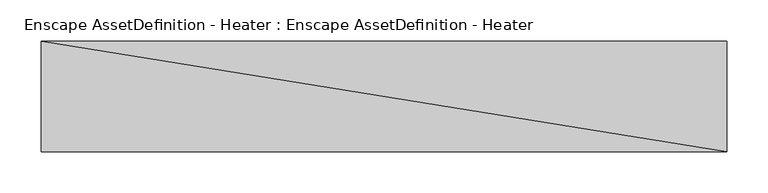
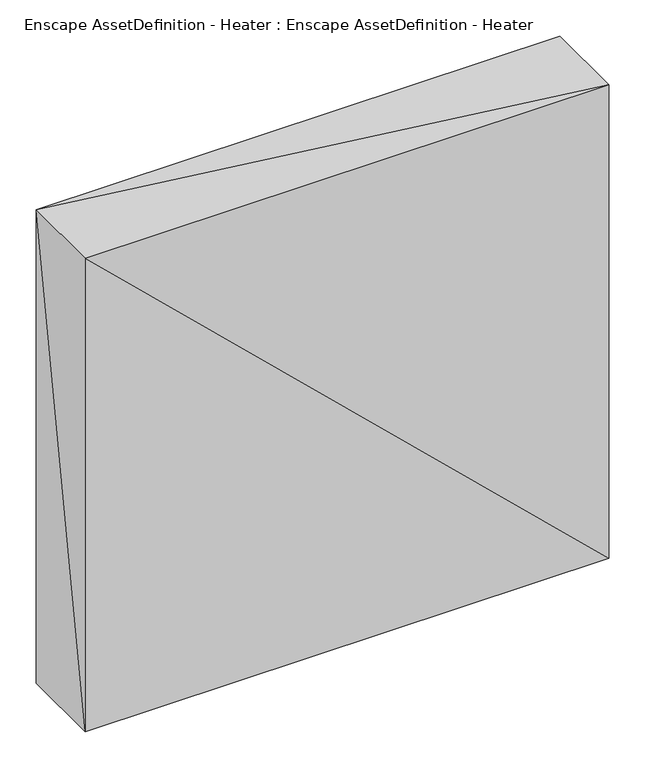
"""IFC4 building model written with IfcOpenShell, lengths in millimetres: geographic element geometry, Enscape AssetDefinition - Heater : Enscape AssetDefinition - Heater."""

import ifcopenshell
import ifcopenshell.guid

model = None  # the IFC model being written
_history = None  # IfcOwnerHistory: only IFC2X3 demands one
_inside = {}  # id of a spatial element -> (the spatial element, [elements in it])
_under = {}  # id of a project, library or spatial element -> (it, [spatial elements below it])
_declared = {}  # id of a project -> (the project, [libraries it declares])
_typed = {}  # id of a type object -> (the type object, [elements of that type])
_made_of = {}  # id of a material, layer set ... -> (it, [elements and type objects made of it])


def new_model(schema):
    """Start an empty IFC model of exactly this schema.

    Asked for "IFC4X3", IfcOpenShell would pick the latest addendum, in which some entities
    have other attributes; the version numbers below select the first issue.
    IFC2X3 requires an IfcOwnerHistory on every rooted entity: one is made here for all.
    """
    global model, _history
    if schema == "IFC4X3":
        model = ifcopenshell.file(schema_version=(4, 3, 0, 0))
    else:
        model = ifcopenshell.file(schema=schema)
    _inside.clear()
    _under.clear()
    _declared.clear()
    _typed.clear()
    _made_of.clear()
    _history = None
    if model.schema == "IFC2X3":
        org = make("IfcOrganization", Name="unknown")
        user = make(
            "IfcPersonAndOrganization",
            ThePerson=make("IfcPerson", FamilyName="unknown"),
            TheOrganization=org,
        )
        app = make(
            "IfcApplication",
            ApplicationDeveloper=org,
            Version="unknown",
            ApplicationFullName="unknown",
            ApplicationIdentifier="unknown",
        )
        _history = make(
            "IfcOwnerHistory",
            OwningUser=user,
            OwningApplication=app,
            ChangeAction="ADDED",
            CreationDate=0,
        )
    return model


def make(cls, **values):
    """One entity of the class cls with the attributes given. An attribute that is None is left unset."""
    return model.create_entity(
        cls, **{name: value for name, value in values.items() if value is not None}
    )


def rooted(cls, **values):
    """An entity with a GlobalId (a new one), such as an element, a storey or a relation."""
    return make(cls, GlobalId=ifcopenshell.guid.new(), OwnerHistory=_history, **values)


def si_unit(unit_type, name, prefix=None):
    """IfcSIUnit, for example si_unit("LENGTHUNIT", "METRE", prefix="MILLI")."""
    return make("IfcSIUnit", UnitType=unit_type, Prefix=prefix, Name=name)


def assignment(units):
    """IfcUnitAssignment: the units of a project."""
    return None if units is None else make("IfcUnitAssignment", Units=units)


def point(xyz):
    """IfcCartesianPoint."""
    return None if xyz is None else make("IfcCartesianPoint", Coordinates=xyz)


def direction(xyz):
    """IfcDirection."""
    return None if xyz is None else make("IfcDirection", DirectionRatios=xyz)


def frame(location, z_axis=None, x_axis=None):
    """IfcAxis2Placement3D, a coordinate frame: its origin and axes. An axis left out is left unset."""
    return make(
        "IfcAxis2Placement3D",
        Location=point(location),
        Axis=direction(z_axis),
        RefDirection=direction(x_axis),
    )


def origin():
    """The frame at (0, 0, 0) with its axes left unset."""
    return frame((0.0, 0.0, 0.0))


def place(relative_to, where):
    """IfcLocalPlacement: puts the frame where relative to a parent placement (None: the world)."""
    return make(
        "IfcLocalPlacement", PlacementRelTo=relative_to, RelativePlacement=where
    )


def context(
    kind, dimensions, precision=None, world=None, true_north=None, identifier=None
):
    """IfcGeometricRepresentationContext, for example the 3D "Model" context."""
    return make(
        "IfcGeometricRepresentationContext",
        ContextIdentifier=identifier,
        ContextType=kind,
        CoordinateSpaceDimension=dimensions,
        Precision=precision,
        WorldCoordinateSystem=world,
        TrueNorth=true_north,
    )


def project(units=None, contexts=None):
    """IfcProject with its units and contexts."""
    return rooted(
        "IfcProject",
        Name="project",
        RepresentationContexts=contexts,
        UnitsInContext=assignment(units),
    )


def spatial(cls, under=None, at=None, **own):
    """A site, building, storey or space (cls), placed at a placement, below another one or the project."""
    s = rooted(cls, ObjectPlacement=at, **own)
    if under is not None:
        _under.setdefault(under.id(), (under, []))[1].append(s)
    return s


def faces_of(points, faces, orient=None, outer=None):
    """IfcFace entities. A face is a list of loops; a loop is a list of indices into points, from 0.

    orient and outer hold one flag for each loop. By default every Orientation is true, the
    first loop of a face is its IfcFaceOuterBound and the others are IfcFaceBound.
    """
    made = []
    for i, loops in enumerate(faces):
        bounds = []
        for j, loop in enumerate(loops):
            is_outer = j == 0 if outer is None else outer[i][j]
            bounds.append(
                make(
                    "IfcFaceOuterBound" if is_outer else "IfcFaceBound",
                    Bound=make("IfcPolyLoop", Polygon=[points[k] for k in loop]),
                    Orientation=True if orient is None else orient[i][j],
                )
            )
        made.append(make("IfcFace", Bounds=bounds))
    return made


def faceted_brep(points, faces, orient=None, outer=None, voids=None):
    """IfcFacetedBrep: a solid bounded by flat faces; with voids (closed shells), ...WithVoids."""
    shared = [point(p) for p in points]
    hull = make("IfcClosedShell", CfsFaces=faces_of(shared, faces, orient, outer))
    if voids is None:
        return make("IfcFacetedBrep", Outer=hull)
    return make(
        "IfcFacetedBrepWithVoids",
        Outer=hull,
        Voids=[
            make(cls, CfsFaces=faces_of(shared, fs, o, b)) for cls, fs, o, b in voids
        ],
    )


def shape(context_of_items, identifier, shape_type, items):
    """IfcShapeRepresentation: the items that make up one representation, for example the "Body"."""
    return make(
        "IfcShapeRepresentation",
        ContextOfItems=context_of_items,
        RepresentationIdentifier=identifier,
        RepresentationType=shape_type,
        Items=items,
    )


def source(mapping_origin, context_of_items, identifier, shape_type, items):
    """IfcRepresentationMap: a shape defined once, which mapped items show again and again."""
    return make(
        "IfcRepresentationMap",
        MappingOrigin=mapping_origin,
        MappedRepresentation=shape(context_of_items, identifier, shape_type, items),
    )


def transform(
    local_origin,
    x_axis=None,
    y_axis=None,
    z_axis=None,
    scale=None,
    scale2=None,
    scale3=None,
    uniform=True,
):
    """IfcCartesianTransformationOperator3D, or its non-uniform kind. x_axis, y_axis, z_axis: its Axis1, 2, 3."""
    if uniform:
        return make(
            "IfcCartesianTransformationOperator3D",
            Axis1=direction(x_axis),
            Axis2=direction(y_axis),
            LocalOrigin=point(local_origin),
            Scale=scale,
            Axis3=direction(z_axis),
        )
    return make(
        "IfcCartesianTransformationOperator3DnonUniform",
        Axis1=direction(x_axis),
        Axis2=direction(y_axis),
        LocalOrigin=point(local_origin),
        Scale=scale,
        Axis3=direction(z_axis),
        Scale2=scale2,
        Scale3=scale3,
    )


def mapped(mapping_source, mapping_target):
    """IfcMappedItem: shows the shape of a source again, moved by a transform."""
    return make(
        "IfcMappedItem", MappingSource=mapping_source, MappingTarget=mapping_target
    )


def made_of(thing, what):
    """Note that an element or type object is made of a material, layer set ...; save() writes the relation."""
    if what is not None:
        _made_of.setdefault(what.id(), (what, []))[1].append(thing)
    return thing


def element(
    cls,
    number,
    at=None,
    inside=None,
    cuts=None,
    type_object=None,
    material=None,
    context=None,
    identifier="Body",
    shape_type=None,
    held_by="IfcProductDefinitionShape",
    body=None,
    shapes=None,
    **own,
):
    """One element of the class cls, such as IfcWall. Its Tag is "e" and its number.

    at: its placement. inside: the storey or other place that contains it. cuts: it is an
    opening in that element (IfcRelVoidsElement). A single representation is given by context,
    identifier, shape_type and body (its items); several are given by shapes. held_by: the class
    of the entity that holds the representations. save() writes the other relations.
    """
    e = rooted(cls, Tag="e%d" % number, ObjectPlacement=at, **own)
    if body is not None:
        shapes = [shape(context, identifier, shape_type, body)]
    if shapes is not None:
        e.Representation = make(held_by, Representations=shapes)
    if inside is not None:
        _inside.setdefault(inside.id(), (inside, []))[1].append(e)
    if cuts is not None:
        rooted(
            "IfcRelVoidsElement", RelatingBuildingElement=cuts, RelatedOpeningElement=e
        )
    if type_object is not None:
        _typed.setdefault(type_object.id(), (type_object, []))[1].append(e)
    return made_of(e, material)


def aggregate(whole, parts):
    """IfcRelAggregates: a whole, such as a stair, and the parts it consists of."""
    return rooted("IfcRelAggregates", RelatingObject=whole, RelatedObjects=parts)


def save(model, path):
    """Write the relations noted so far, then the file.

    IfcRelAggregates (storeys below a building ...), IfcRelContainedInSpatialStructure (elements
    in a storey), IfcRelDefinesByType, IfcRelAssociatesMaterial and IfcRelDeclares: one each for
    every whole, place, type object, material and project.
    """
    for whole, parts in _under.values():
        aggregate(whole, parts)
    for where, things in _inside.values():
        rooted(
            "IfcRelContainedInSpatialStructure",
            RelatedElements=things,
            RelatingStructure=where,
        )
    for kind, things in _typed.values():
        rooted("IfcRelDefinesByType", RelatedObjects=things, RelatingType=kind)
    for what, things in _made_of.values():
        rooted("IfcRelAssociatesMaterial", RelatedObjects=things, RelatingMaterial=what)
    for by, libraries in _declared.values():
        rooted("IfcRelDeclares", RelatingContext=by, RelatedDefinitions=libraries)
    model.write(path)


def enscape_assetdefinition_heater_enscape_assetdefinition_ceba5591(model_context):
    return source(origin(), model_context, "Body", "Brep", [
        faceted_brep([(-418.4759855, 0.0, 795.807004), (-418.4759855, -134.2310011, 795.807004), (414.6380126, -134.2310011, 795.807004), (414.6380126, 0.0, 795.807004), (-418.4759855, -134.2310011, 0.0), (-418.4759855, 0.0, 0.0), (414.6380126, -134.2310011, 0.0), (414.6380126, 0.0, 0.0)], [[[0, 1, 2]], [[0, 2, 3]], [[4, 1, 0]], [[4, 0, 5]], [[6, 2, 1]], [[6, 1, 4]], [[7, 3, 2]], [[7, 2, 6]], [[5, 0, 3]], [[5, 3, 7]], [[5, 6, 4]], [[5, 7, 6]]]),
    ])


if __name__ == "__main__":
    model = new_model("IFC4")
    model_context = context("Model", 3, world=origin())
    ifc_project = project(units=[si_unit("LENGTHUNIT", "METRE", prefix="MILLI")], contexts=[model_context])
    site = spatial("IfcSite", under=ifc_project)
    building = spatial("IfcBuilding", under=site)
    placement = place(None, origin())
    enscape_assetdefinition_heater_enscape_assetdefinition_shape = enscape_assetdefinition_heater_enscape_assetdefinition_ceba5591(model_context)
    element("IfcGeographicElement", 1, ObjectType="Enscape AssetDefinition - Heater : Enscape AssetDefinition - Heater", at=placement, inside=building, context=model_context, shape_type="MappedRepresentation", body=[
        mapped(enscape_assetdefinition_heater_enscape_assetdefinition_shape, transform((0.0, 0.0, 0.0), x_axis=(1.0, 0.0, 0.0), y_axis=(0.0, 1.0, 0.0), z_axis=(0.0, 0.0, 1.0))),
    ])
    save(model, "model.ifc")
